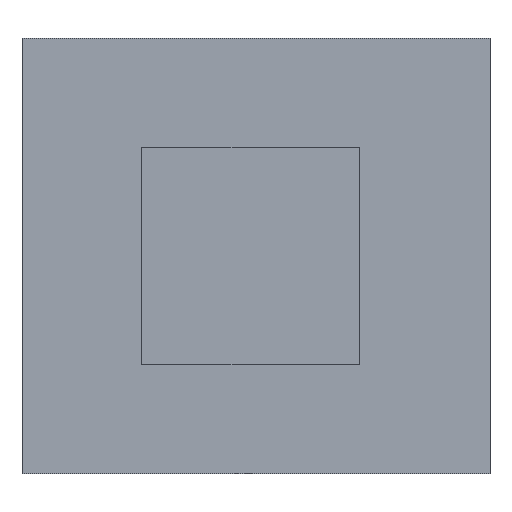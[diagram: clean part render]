
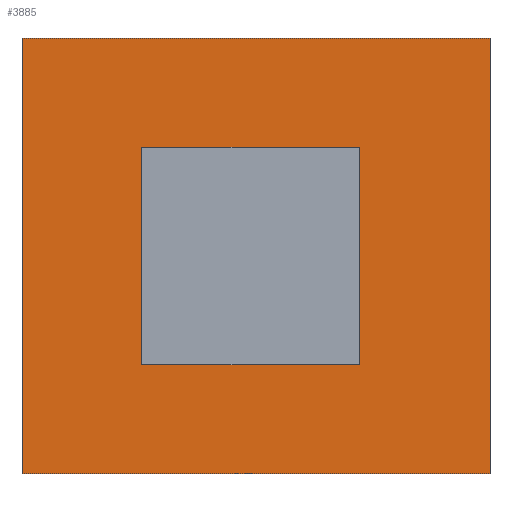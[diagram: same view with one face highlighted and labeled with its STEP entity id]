
A CAD part, front view. The second image highlights one B-rep face of the part: STEP entity #3885.
In plain terms, the highlighted planar face has unit normal (0, -1, 0).
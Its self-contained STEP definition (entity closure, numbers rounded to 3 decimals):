
#180 = PLANE('',#181);
#181 = AXIS2_PLACEMENT_3D('',#182,#183,#184);
#182 = CARTESIAN_POINT('',(0.,-4.,0.));
#183 = DIRECTION('',(0.,0.,1.));
#184 = DIRECTION('',(1.,0.,0.));
#334 = PLANE('',#335);
#335 = AXIS2_PLACEMENT_3D('',#336,#337,#338);
#336 = CARTESIAN_POINT('',(0.,-4.,0.));
#337 = DIRECTION('',(1.,0.,0.));
#338 = DIRECTION('',(0.,0.,1.));
#353 = VERTEX_POINT('',#354);
#354 = CARTESIAN_POINT('',(0.,-4.,0.));
#375 = EDGE_CURVE('',#353,#376,#378,.T.);
#376 = VERTEX_POINT('',#377);
#377 = CARTESIAN_POINT('',(43.,-4.,0.));
#378 = SURFACE_CURVE('',#379,(#383,#390),.PCURVE_S1.);
#379 = LINE('',#380,#381);
#380 = CARTESIAN_POINT('',(0.,-4.,0.));
#381 = VECTOR('',#382,1.);
#382 = DIRECTION('',(1.,0.,0.));
#383 = PCURVE('',#180,#384);
#384 = DEFINITIONAL_REPRESENTATION('',(#385),#389);
#385 = LINE('',#386,#387);
#386 = CARTESIAN_POINT('',(0.,0.));
#387 = VECTOR('',#388,1.);
#388 = DIRECTION('',(1.,0.));
#389 = ( GEOMETRIC_REPRESENTATION_CONTEXT(2) 
PARAMETRIC_REPRESENTATION_CONTEXT() REPRESENTATION_CONTEXT('2D SPACE',''
  ) );
#390 = PCURVE('',#391,#396);
#391 = PLANE('',#392);
#392 = AXIS2_PLACEMENT_3D('',#393,#394,#395);
#393 = CARTESIAN_POINT('',(0.,-4.,0.));
#394 = DIRECTION('',(0.,1.,0.));
#395 = DIRECTION('',(0.,0.,1.));
#396 = DEFINITIONAL_REPRESENTATION('',(#397),#401);
#397 = LINE('',#398,#399);
#398 = CARTESIAN_POINT('',(0.,0.));
#399 = VECTOR('',#400,1.);
#400 = DIRECTION('',(0.,1.));
#401 = ( GEOMETRIC_REPRESENTATION_CONTEXT(2) 
PARAMETRIC_REPRESENTATION_CONTEXT() REPRESENTATION_CONTEXT('2D SPACE',''
  ) );
#419 = PLANE('',#420);
#420 = AXIS2_PLACEMENT_3D('',#421,#422,#423);
#421 = CARTESIAN_POINT('',(43.,-4.,0.));
#422 = DIRECTION('',(1.,0.,0.));
#423 = DIRECTION('',(0.,0.,1.));
#1097 = PLANE('',#1098);
#1098 = AXIS2_PLACEMENT_3D('',#1099,#1100,#1101);
#1099 = CARTESIAN_POINT('',(0.,-4.,40.));
#1100 = DIRECTION('',(0.,0.,1.));
#1101 = DIRECTION('',(1.,0.,0.));
#3784 = EDGE_CURVE('',#353,#3785,#3787,.T.);
#3785 = VERTEX_POINT('',#3786);
#3786 = CARTESIAN_POINT('',(0.,-4.,40.));
#3787 = SURFACE_CURVE('',#3788,(#3792,#3799),.PCURVE_S1.);
#3788 = LINE('',#3789,#3790);
#3789 = CARTESIAN_POINT('',(0.,-4.,0.));
#3790 = VECTOR('',#3791,1.);
#3791 = DIRECTION('',(0.,0.,1.));
#3792 = PCURVE('',#334,#3793);
#3793 = DEFINITIONAL_REPRESENTATION('',(#3794),#3798);
#3794 = LINE('',#3795,#3796);
#3795 = CARTESIAN_POINT('',(0.,0.));
#3796 = VECTOR('',#3797,1.);
#3797 = DIRECTION('',(1.,0.));
#3798 = ( GEOMETRIC_REPRESENTATION_CONTEXT(2) 
PARAMETRIC_REPRESENTATION_CONTEXT() REPRESENTATION_CONTEXT('2D SPACE',''
  ) );
#3799 = PCURVE('',#391,#3800);
#3800 = DEFINITIONAL_REPRESENTATION('',(#3801),#3805);
#3801 = LINE('',#3802,#3803);
#3802 = CARTESIAN_POINT('',(0.,0.));
#3803 = VECTOR('',#3804,1.);
#3804 = DIRECTION('',(1.,0.));
#3805 = ( GEOMETRIC_REPRESENTATION_CONTEXT(2) 
PARAMETRIC_REPRESENTATION_CONTEXT() REPRESENTATION_CONTEXT('2D SPACE',''
  ) );
#3885 = ADVANCED_FACE('',(#3886,#3992),#391,.F.);
#3886 = FACE_BOUND('',#3887,.F.);
#3887 = EDGE_LOOP('',(#3888,#3916,#3942,#3968));
#3888 = ORIENTED_EDGE('',*,*,#3889,.F.);
#3889 = EDGE_CURVE('',#3890,#3892,#3894,.T.);
#3890 = VERTEX_POINT('',#3891);
#3891 = CARTESIAN_POINT('',(11.,-4.,30.));
#3892 = VERTEX_POINT('',#3893);
#3893 = CARTESIAN_POINT('',(31.,-4.,30.));
#3894 = SURFACE_CURVE('',#3895,(#3899,#3905),.PCURVE_S1.);
#3895 = LINE('',#3896,#3897);
#3896 = CARTESIAN_POINT('',(5.5,-4.,30.));
#3897 = VECTOR('',#3898,1.);
#3898 = DIRECTION('',(1.,0.,0.));
#3899 = PCURVE('',#391,#3900);
#3900 = DEFINITIONAL_REPRESENTATION('',(#3901),#3904);
#3901 = B_SPLINE_CURVE_WITH_KNOTS('',1,(#3902,#3903),.UNSPECIFIED.,.F.,
  .F.,(2,2),(5.5,25.5),.PIECEWISE_BEZIER_KNOTS.);
#3902 = CARTESIAN_POINT('',(30.,11.));
#3903 = CARTESIAN_POINT('',(30.,31.));
#3904 = ( GEOMETRIC_REPRESENTATION_CONTEXT(2) 
PARAMETRIC_REPRESENTATION_CONTEXT() REPRESENTATION_CONTEXT('2D SPACE',''
  ) );
#3905 = PCURVE('',#3906,#3911);
#3906 = PLANE('',#3907);
#3907 = AXIS2_PLACEMENT_3D('',#3908,#3909,#3910);
#3908 = CARTESIAN_POINT('',(11.,-8.,30.));
#3909 = DIRECTION('',(0.,0.,1.));
#3910 = DIRECTION('',(1.,0.,0.));
#3911 = DEFINITIONAL_REPRESENTATION('',(#3912),#3915);
#3912 = B_SPLINE_CURVE_WITH_KNOTS('',1,(#3913,#3914),.UNSPECIFIED.,.F.,
  .F.,(2,2),(5.5,25.5),.PIECEWISE_BEZIER_KNOTS.);
#3913 = CARTESIAN_POINT('',(0.,4.));
#3914 = CARTESIAN_POINT('',(20.,4.));
#3915 = ( GEOMETRIC_REPRESENTATION_CONTEXT(2) 
PARAMETRIC_REPRESENTATION_CONTEXT() REPRESENTATION_CONTEXT('2D SPACE',''
  ) );
#3916 = ORIENTED_EDGE('',*,*,#3917,.T.);
#3917 = EDGE_CURVE('',#3890,#3918,#3920,.T.);
#3918 = VERTEX_POINT('',#3919);
#3919 = CARTESIAN_POINT('',(11.,-4.,10.));
#3920 = SURFACE_CURVE('',#3921,(#3925,#3931),.PCURVE_S1.);
#3921 = LINE('',#3922,#3923);
#3922 = CARTESIAN_POINT('',(11.,-4.,5.));
#3923 = VECTOR('',#3924,1.);
#3924 = DIRECTION('',(0.,0.,-1.));
#3925 = PCURVE('',#391,#3926);
#3926 = DEFINITIONAL_REPRESENTATION('',(#3927),#3930);
#3927 = B_SPLINE_CURVE_WITH_KNOTS('',1,(#3928,#3929),.UNSPECIFIED.,.F.,
  .F.,(2,2),(-25.,-5.),.PIECEWISE_BEZIER_KNOTS.);
#3928 = CARTESIAN_POINT('',(30.,11.));
#3929 = CARTESIAN_POINT('',(10.,11.));
#3930 = ( GEOMETRIC_REPRESENTATION_CONTEXT(2) 
PARAMETRIC_REPRESENTATION_CONTEXT() REPRESENTATION_CONTEXT('2D SPACE',''
  ) );
#3931 = PCURVE('',#3932,#3937);
#3932 = PLANE('',#3933);
#3933 = AXIS2_PLACEMENT_3D('',#3934,#3935,#3936);
#3934 = CARTESIAN_POINT('',(11.,-8.,10.));
#3935 = DIRECTION('',(1.,0.,0.));
#3936 = DIRECTION('',(0.,0.,1.));
#3937 = DEFINITIONAL_REPRESENTATION('',(#3938),#3941);
#3938 = B_SPLINE_CURVE_WITH_KNOTS('',1,(#3939,#3940),.UNSPECIFIED.,.F.,
  .F.,(2,2),(-25.,-5.),.PIECEWISE_BEZIER_KNOTS.);
#3939 = CARTESIAN_POINT('',(20.,-4.));
#3940 = CARTESIAN_POINT('',(0.,-4.));
#3941 = ( GEOMETRIC_REPRESENTATION_CONTEXT(2) 
PARAMETRIC_REPRESENTATION_CONTEXT() REPRESENTATION_CONTEXT('2D SPACE',''
  ) );
#3942 = ORIENTED_EDGE('',*,*,#3943,.T.);
#3943 = EDGE_CURVE('',#3918,#3944,#3946,.T.);
#3944 = VERTEX_POINT('',#3945);
#3945 = CARTESIAN_POINT('',(31.,-4.,10.));
#3946 = SURFACE_CURVE('',#3947,(#3951,#3957),.PCURVE_S1.);
#3947 = LINE('',#3948,#3949);
#3948 = CARTESIAN_POINT('',(5.5,-4.,10.));
#3949 = VECTOR('',#3950,1.);
#3950 = DIRECTION('',(1.,0.,0.));
#3951 = PCURVE('',#391,#3952);
#3952 = DEFINITIONAL_REPRESENTATION('',(#3953),#3956);
#3953 = B_SPLINE_CURVE_WITH_KNOTS('',1,(#3954,#3955),.UNSPECIFIED.,.F.,
  .F.,(2,2),(5.5,25.5),.PIECEWISE_BEZIER_KNOTS.);
#3954 = CARTESIAN_POINT('',(10.,11.));
#3955 = CARTESIAN_POINT('',(10.,31.));
#3956 = ( GEOMETRIC_REPRESENTATION_CONTEXT(2) 
PARAMETRIC_REPRESENTATION_CONTEXT() REPRESENTATION_CONTEXT('2D SPACE',''
  ) );
#3957 = PCURVE('',#3958,#3963);
#3958 = PLANE('',#3959);
#3959 = AXIS2_PLACEMENT_3D('',#3960,#3961,#3962);
#3960 = CARTESIAN_POINT('',(11.,-8.,10.));
#3961 = DIRECTION('',(0.,0.,1.));
#3962 = DIRECTION('',(1.,0.,0.));
#3963 = DEFINITIONAL_REPRESENTATION('',(#3964),#3967);
#3964 = B_SPLINE_CURVE_WITH_KNOTS('',1,(#3965,#3966),.UNSPECIFIED.,.F.,
  .F.,(2,2),(5.5,25.5),.PIECEWISE_BEZIER_KNOTS.);
#3965 = CARTESIAN_POINT('',(0.,4.));
#3966 = CARTESIAN_POINT('',(20.,4.));
#3967 = ( GEOMETRIC_REPRESENTATION_CONTEXT(2) 
PARAMETRIC_REPRESENTATION_CONTEXT() REPRESENTATION_CONTEXT('2D SPACE',''
  ) );
#3968 = ORIENTED_EDGE('',*,*,#3969,.F.);
#3969 = EDGE_CURVE('',#3892,#3944,#3970,.T.);
#3970 = SURFACE_CURVE('',#3971,(#3975,#3981),.PCURVE_S1.);
#3971 = LINE('',#3972,#3973);
#3972 = CARTESIAN_POINT('',(31.,-4.,5.));
#3973 = VECTOR('',#3974,1.);
#3974 = DIRECTION('',(0.,0.,-1.));
#3975 = PCURVE('',#391,#3976);
#3976 = DEFINITIONAL_REPRESENTATION('',(#3977),#3980);
#3977 = B_SPLINE_CURVE_WITH_KNOTS('',1,(#3978,#3979),.UNSPECIFIED.,.F.,
  .F.,(2,2),(-25.,-5.),.PIECEWISE_BEZIER_KNOTS.);
#3978 = CARTESIAN_POINT('',(30.,31.));
#3979 = CARTESIAN_POINT('',(10.,31.));
#3980 = ( GEOMETRIC_REPRESENTATION_CONTEXT(2) 
PARAMETRIC_REPRESENTATION_CONTEXT() REPRESENTATION_CONTEXT('2D SPACE',''
  ) );
#3981 = PCURVE('',#3982,#3987);
#3982 = PLANE('',#3983);
#3983 = AXIS2_PLACEMENT_3D('',#3984,#3985,#3986);
#3984 = CARTESIAN_POINT('',(31.,-8.,10.));
#3985 = DIRECTION('',(1.,0.,0.));
#3986 = DIRECTION('',(0.,0.,1.));
#3987 = DEFINITIONAL_REPRESENTATION('',(#3988),#3991);
#3988 = B_SPLINE_CURVE_WITH_KNOTS('',1,(#3989,#3990),.UNSPECIFIED.,.F.,
  .F.,(2,2),(-25.,-5.),.PIECEWISE_BEZIER_KNOTS.);
#3989 = CARTESIAN_POINT('',(20.,-4.));
#3990 = CARTESIAN_POINT('',(0.,-4.));
#3991 = ( GEOMETRIC_REPRESENTATION_CONTEXT(2) 
PARAMETRIC_REPRESENTATION_CONTEXT() REPRESENTATION_CONTEXT('2D SPACE',''
  ) );
#3992 = FACE_BOUND('',#3993,.F.);
#3993 = EDGE_LOOP('',(#3994,#3995,#3996,#4019));
#3994 = ORIENTED_EDGE('',*,*,#375,.F.);
#3995 = ORIENTED_EDGE('',*,*,#3784,.T.);
#3996 = ORIENTED_EDGE('',*,*,#3997,.T.);
#3997 = EDGE_CURVE('',#3785,#3998,#4000,.T.);
#3998 = VERTEX_POINT('',#3999);
#3999 = CARTESIAN_POINT('',(43.,-4.,40.));
#4000 = SURFACE_CURVE('',#4001,(#4005,#4012),.PCURVE_S1.);
#4001 = LINE('',#4002,#4003);
#4002 = CARTESIAN_POINT('',(0.,-4.,40.));
#4003 = VECTOR('',#4004,1.);
#4004 = DIRECTION('',(1.,0.,0.));
#4005 = PCURVE('',#391,#4006);
#4006 = DEFINITIONAL_REPRESENTATION('',(#4007),#4011);
#4007 = LINE('',#4008,#4009);
#4008 = CARTESIAN_POINT('',(40.,0.));
#4009 = VECTOR('',#4010,1.);
#4010 = DIRECTION('',(0.,1.));
#4011 = ( GEOMETRIC_REPRESENTATION_CONTEXT(2) 
PARAMETRIC_REPRESENTATION_CONTEXT() REPRESENTATION_CONTEXT('2D SPACE',''
  ) );
#4012 = PCURVE('',#1097,#4013);
#4013 = DEFINITIONAL_REPRESENTATION('',(#4014),#4018);
#4014 = LINE('',#4015,#4016);
#4015 = CARTESIAN_POINT('',(0.,0.));
#4016 = VECTOR('',#4017,1.);
#4017 = DIRECTION('',(1.,0.));
#4018 = ( GEOMETRIC_REPRESENTATION_CONTEXT(2) 
PARAMETRIC_REPRESENTATION_CONTEXT() REPRESENTATION_CONTEXT('2D SPACE',''
  ) );
#4019 = ORIENTED_EDGE('',*,*,#4020,.F.);
#4020 = EDGE_CURVE('',#376,#3998,#4021,.T.);
#4021 = SURFACE_CURVE('',#4022,(#4026,#4033),.PCURVE_S1.);
#4022 = LINE('',#4023,#4024);
#4023 = CARTESIAN_POINT('',(43.,-4.,0.));
#4024 = VECTOR('',#4025,1.);
#4025 = DIRECTION('',(0.,0.,1.));
#4026 = PCURVE('',#391,#4027);
#4027 = DEFINITIONAL_REPRESENTATION('',(#4028),#4032);
#4028 = LINE('',#4029,#4030);
#4029 = CARTESIAN_POINT('',(0.,43.));
#4030 = VECTOR('',#4031,1.);
#4031 = DIRECTION('',(1.,0.));
#4032 = ( GEOMETRIC_REPRESENTATION_CONTEXT(2) 
PARAMETRIC_REPRESENTATION_CONTEXT() REPRESENTATION_CONTEXT('2D SPACE',''
  ) );
#4033 = PCURVE('',#419,#4034);
#4034 = DEFINITIONAL_REPRESENTATION('',(#4035),#4039);
#4035 = LINE('',#4036,#4037);
#4036 = CARTESIAN_POINT('',(0.,0.));
#4037 = VECTOR('',#4038,1.);
#4038 = DIRECTION('',(1.,0.));
#4039 = ( GEOMETRIC_REPRESENTATION_CONTEXT(2) 
PARAMETRIC_REPRESENTATION_CONTEXT() REPRESENTATION_CONTEXT('2D SPACE',''
  ) );
